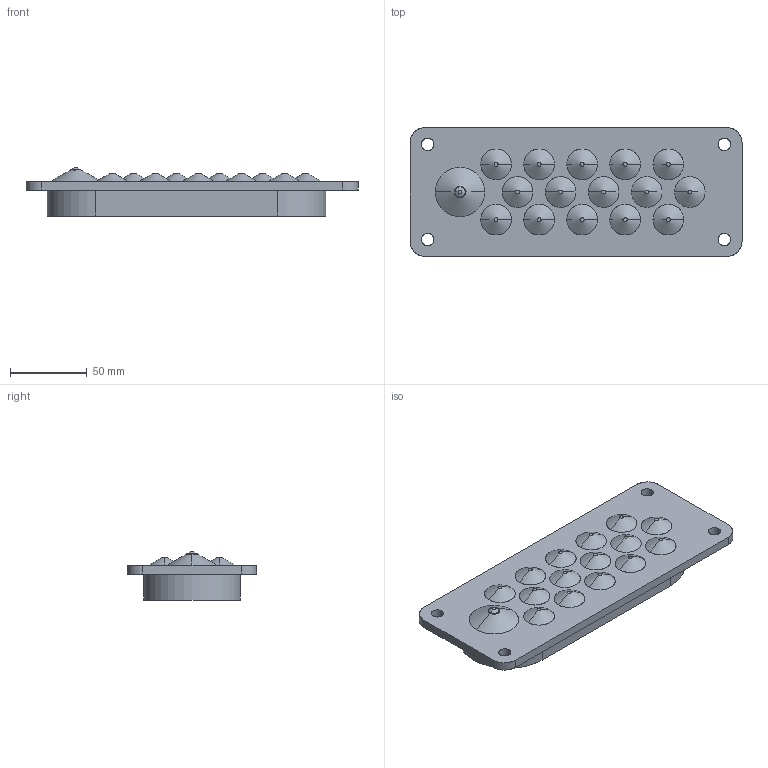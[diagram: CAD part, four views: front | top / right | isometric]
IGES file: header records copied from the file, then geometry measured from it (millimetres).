
Start section: SolidWorks IGES file using analytic representation for surfaces
Global section: file name: C:\Solidworks\omat tuotteet\Space charge models\Multigate\ip54\IGES\100084.IGS; native system: SolidWorks 2012; preprocessor: SolidWorks 2012; author: joni.lehtonen; date: 121211.085041; units: millimetre
Bounding box: 216 x 84 x 31.36 mm (x, y, z)
Surface area: 64987 mm2 (no closed solid volume)
Topology: 0 solids, 0 shells, 130 faces, 2996 edges, 2996 vertices
Faces by surface type: revolution 85, bspline 45
